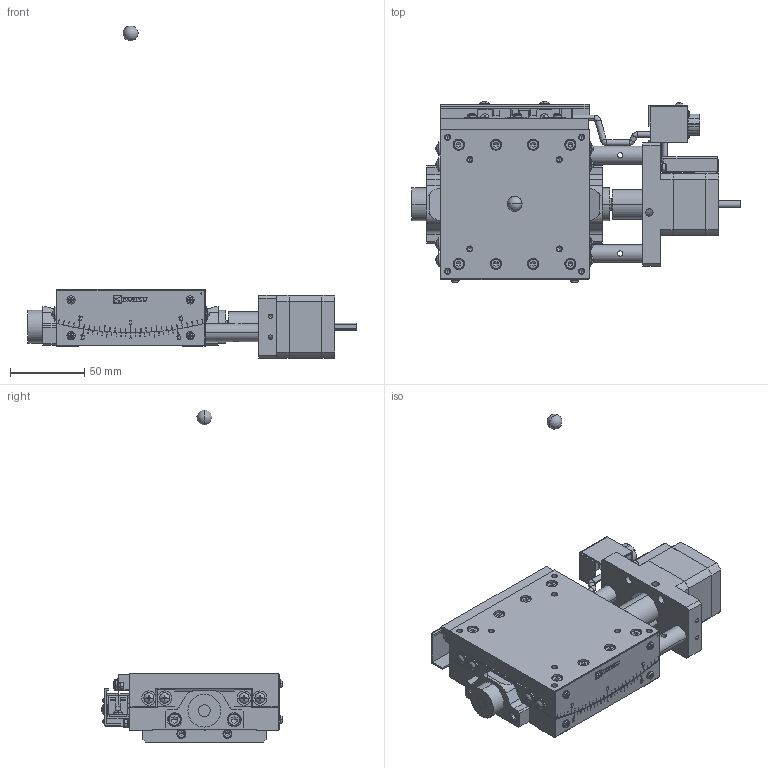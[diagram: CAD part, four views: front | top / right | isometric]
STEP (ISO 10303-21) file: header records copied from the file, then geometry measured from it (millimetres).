
FILE_DESCRIPTION( (''), '2;1');
FILE_NAME ('SA10A-R2B01.stp','2021-11-19T12:46:13',(''),(''),'spGate 17.5.5','','');
FILE_SCHEMA (('AUTOMOTIVE_DESIGN'));
Length unit declared in the file: millimetre
Products named in the file (4): Assembly; SA10A-R2B01-prt0; SA10A-R2B01-prt1; SA10A-R2B01-prt2
Assembly tree (3 placements, depth 2):
  Assembly
    SA10A-R2B01-prt0
    SA10A-R2B01-prt1
    SA10A-R2B01-prt2
Bounding box: 221.5 x 121.57 x 223 mm (x, y, z)
Volume: 534669.9 mm3; surface area: 126701.8 mm2
Topology: 3 solids, 5 shells, 2636 faces, 6665 edges, 4154 vertices
Faces by surface type: plane 1754, cylinder 529, bspline 306, sphere 47
Entity records: 134446 total; most frequent: CARTESIAN_POINT 19753, ORIENTED_EDGE 13126, DIRECTION 12283, COLOUR_RGB 9202, PRESENTATION_STYLE_ASSIGNMENT 9202, STYLED_ITEM 9202, EDGE_CURVE 6563, DRAUGHTING_PRE_DEFINED_CURVE_FONT 6563
